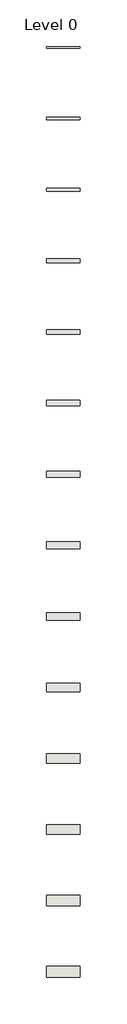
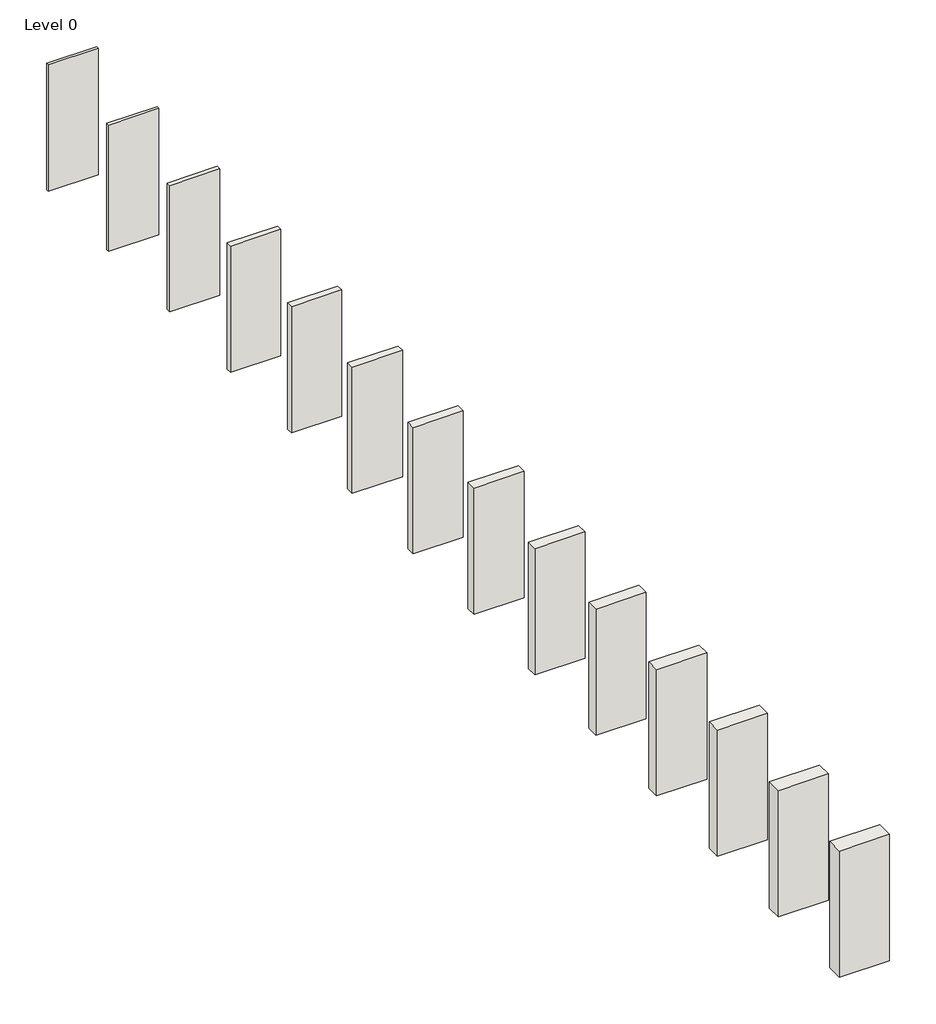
# One storey, incomplete: 14 walls.
"""IFC4 building model written with IfcOpenShell, lengths in millimetres."""

from ifc_helpers import new_model, si_unit, origin, origin_with_axes, place, context, project, spatial, polyline, outline, extrude, element, save

model = new_model("IFC4")

# Units and contexts
model_context = context("Model", 3, world=origin())
ifc_project = project(units=[si_unit("LENGTHUNIT", "METRE", prefix="MILLI")], contexts=[model_context])

# Site, building, storey
site = spatial("IfcSite", under=ifc_project)
building = spatial("IfcBuilding", under=site)
storey = spatial("IfcBuildingStorey", under=building, Name="Level 0", Elevation=0.0)

# Walls
placement = place(None, origin())
element("IfcWall", 1, ObjectType="Kingspan Kooltherm® K12 Framing Board - 25mm", at=placement, inside=storey, context=model_context, shape_type="SweptSolid", body=[
    extrude(outline(polyline([(-4933.3075246, 5639.6331063), (-4483.3075246, 5639.6331063), (-4483.3075246, 5614.6331063), (-4933.3075246, 5614.6331063), (-4933.3075246, 5639.6331063)])), origin_with_axes(), (0.0, 0.0, 1.0), 1200.0),
])
element("IfcWall", 2, ObjectType="Kingspan Kooltherm® K12 Framing Board - 30mm", at=placement, inside=storey, context=model_context, shape_type="SweptSolid", body=[
    extrude(outline(polyline([(-4933.3075246, 4699.8253838), (-4483.3075246, 4699.8253838), (-4483.3075246, 4669.8253838), (-4933.3075246, 4669.8253838), (-4933.3075246, 4699.8253838)])), origin_with_axes(), (0.0, 0.0, 1.0), 1200.0),
])
element("IfcWall", 3, ObjectType="Kingspan Kooltherm® K12 Framing Board - 40mm", at=placement, inside=storey, context=model_context, shape_type="SweptSolid", body=[
    extrude(outline(polyline([(-4933.3075246, 3762.5176614), (-4483.3075246, 3762.5176614), (-4483.3075246, 3722.5176614), (-4933.3075246, 3722.5176614), (-4933.3075246, 3762.5176614)])), origin_with_axes(), (0.0, 0.0, 1.0), 1200.0),
])
element("IfcWall", 4, ObjectType="Kingspan Kooltherm® K12 Framing Board - 50mm", at=placement, inside=storey, context=model_context, shape_type="SweptSolid", body=[
    extrude(outline(polyline([(-4933.3075246, 2825.2099389), (-4483.3075246, 2825.2099389), (-4483.3075246, 2775.2099389), (-4933.3075246, 2775.2099389), (-4933.3075246, 2825.2099389)])), origin_with_axes(), (0.0, 0.0, 1.0), 1200.0),
])
element("IfcWall", 5, ObjectType="Kingspan Kooltherm® K12 Framing Board - 60mm", at=placement, inside=storey, context=model_context, shape_type="SweptSolid", body=[
    extrude(outline(polyline([(-4933.3075246, 1887.9022164), (-4483.3075246, 1887.9022164), (-4483.3075246, 1827.9022164), (-4933.3075246, 1827.9022164), (-4933.3075246, 1887.9022164)])), origin_with_axes(), (0.0, 0.0, 1.0), 1200.0),
])
element("IfcWall", 6, ObjectType="Kingspan Kooltherm® K12 Framing Board - 70mm", at=placement, inside=storey, context=model_context, shape_type="SweptSolid", body=[
    extrude(outline(polyline([(-4933.3075246, 950.594494), (-4483.3075246, 950.594494), (-4483.3075246, 880.594494), (-4933.3075246, 880.594494), (-4933.3075246, 950.594494)])), origin_with_axes(), (0.0, 0.0, 1.0), 1200.0),
])
element("IfcWall", 7, ObjectType="Kingspan Kooltherm® K12 Framing Board - 80mm", at=placement, inside=storey, context=model_context, shape_type="SweptSolid", body=[
    extrude(outline(polyline([(-4933.3075246, 13.2867715), (-4483.3075246, 13.2867715), (-4483.3075246, -66.7132285), (-4933.3075246, -66.7132285), (-4933.3075246, 13.2867715)])), origin_with_axes(), (0.0, 0.0, 1.0), 1200.0),
])
element("IfcWall", 8, ObjectType="Kingspan Kooltherm® K12 Framing Board - 90mm", at=placement, inside=storey, context=model_context, shape_type="SweptSolid", body=[
    extrude(outline(polyline([(-4933.3075246, -924.020951), (-4483.3075246, -924.020951), (-4483.3075246, -1014.020951), (-4933.3075246, -1014.020951), (-4933.3075246, -924.020951)])), origin_with_axes(), (0.0, 0.0, 1.0), 1200.0),
])
element("IfcWall", 9, ObjectType="Kingspan Kooltherm® K12 Framing Board - 100mm", at=placement, inside=storey, context=model_context, shape_type="SweptSolid", body=[
    extrude(outline(polyline([(-4933.3075246, -1861.3286734), (-4483.3075246, -1861.3286734), (-4483.3075246, -1961.3286734), (-4933.3075246, -1961.3286734), (-4933.3075246, -1861.3286734)])), origin_with_axes(), (0.0, 0.0, 1.0), 1200.0),
])
element("IfcWall", 10, ObjectType="Kingspan Kooltherm® K12 Framing Board - 110mm", at=placement, inside=storey, context=model_context, shape_type="SweptSolid", body=[
    extrude(outline(polyline([(-4933.3075246, -2798.6363959), (-4483.3075246, -2798.6363959), (-4483.3075246, -2908.6363959), (-4933.3075246, -2908.6363959), (-4933.3075246, -2798.6363959)])), origin_with_axes(), (0.0, 0.0, 1.0), 1200.0),
])
element("IfcWall", 11, ObjectType="Kingspan Kooltherm® K12 Framing Board - 120mm", at=placement, inside=storey, context=model_context, shape_type="SweptSolid", body=[
    extrude(outline(polyline([(-4933.3075246, -3735.9441183), (-4483.3075246, -3735.9441183), (-4483.3075246, -3855.9441183), (-4933.3075246, -3855.9441183), (-4933.3075246, -3735.9441183)])), origin_with_axes(), (0.0, 0.0, 1.0), 1200.0),
])
element("IfcWall", 12, ObjectType="Kingspan Kooltherm® K12 Framing Board - 130mm", at=placement, inside=storey, context=model_context, shape_type="SweptSolid", body=[
    extrude(outline(polyline([(-4933.3075246, -4673.2518408), (-4483.3075246, -4673.2518408), (-4483.3075246, -4803.2518408), (-4933.3075246, -4803.2518408), (-4933.3075246, -4673.2518408)])), origin_with_axes(), (0.0, 0.0, 1.0), 1200.0),
])
element("IfcWall", 13, ObjectType="Kingspan Kooltherm® K12 Framing Board - 140mm", at=placement, inside=storey, context=model_context, shape_type="SweptSolid", body=[
    extrude(outline(polyline([(-4933.3075246, -5610.5595633), (-4483.3075246, -5610.5595633), (-4483.3075246, -5750.5595633), (-4933.3075246, -5750.5595633), (-4933.3075246, -5610.5595633)])), origin_with_axes(), (0.0, 0.0, 1.0), 1200.0),
])
element("IfcWall", 14, ObjectType="Kingspan Kooltherm® K12 Framing Board - 150mm", at=placement, inside=storey, context=model_context, shape_type="SweptSolid", body=[
    extrude(outline(polyline([(-4933.3075246, -6547.8672857), (-4483.3075246, -6547.8672857), (-4483.3075246, -6697.8672857), (-4933.3075246, -6697.8672857), (-4933.3075246, -6547.8672857)])), origin_with_axes(), (0.0, 0.0, 1.0), 1200.0),
])

save(model, "model.ifc")
